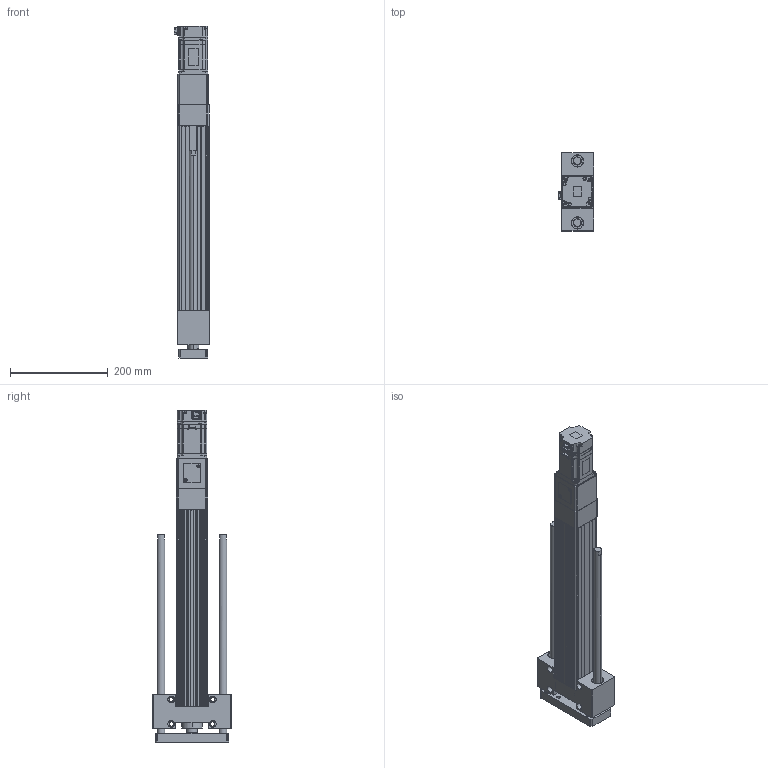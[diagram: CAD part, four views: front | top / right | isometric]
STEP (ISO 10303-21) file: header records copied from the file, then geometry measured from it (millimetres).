
FILE_DESCRIPTION (( 'STEP AP203' ), '1' );
FILE_NAME ('ANS065R-HS300-05(10)(20)-W40.STEP', '2019-03-01T09:16:09', ( 'user' ), ( '' ), 'SwSTEP 2.0', 'SolidWorks 2013', '' );
FILE_SCHEMA (( 'CONFIG_CONTROL_DESIGN' ));
Length unit declared in the file: millimetre
Products named in the file (4): ANS065 ROD ST300 G; sgmjv_04a_a21; ANS065R-HS300-05(10)(20)-W40; ANS065R HS300 VER2
Assembly tree (3 placements, depth 2):
  ANS065R-HS300-05(10)(20)-W40
    ANS065R HS300 VER2
    ANS065 ROD ST300 G
    sgmjv_04a_a21
Bounding box: 72.3 x 160 x 680.6 mm (x, y, z)
Volume: 2361307.5 mm3; surface area: 506900.5 mm2
Topology: 3 solids, 7 shells, 1236 faces, 3237 edges, 2087 vertices
Faces by surface type: plane 696, cylinder 430, cone 110
Entity records: 38235 total; most frequent: CARTESIAN_POINT 6780, DIRECTION 6559, ORIENTED_EDGE 6418, EDGE_CURVE 3209, VECTOR 2199, LINE 2199, AXIS2_PLACEMENT_3D 2180, VERTEX_POINT 2087
